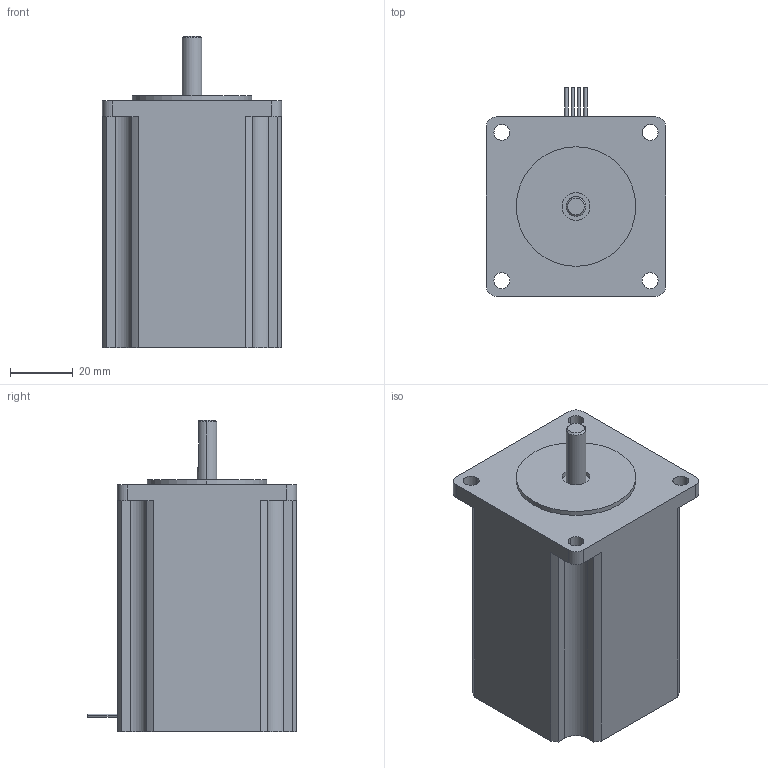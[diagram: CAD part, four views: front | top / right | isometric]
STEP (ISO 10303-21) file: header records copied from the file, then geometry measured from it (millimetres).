
FILE_DESCRIPTION((''),'2;1');
FILE_NAME('C:\Documents and Settings\rbadgerow\Desktop\webmodelmain\web step 3d\5718l\5718l s.stp','2005-05-23T09:12:10',('rbadgerow'),(''),'Autodesk Inventor 9','Autodesk Inventor 9','');
FILE_SCHEMA(('AUTOMOTIVE_DESIGN { 1 0 10303 214 1 1 1 1 }'));
Length unit declared in the file: inch
Products named in the file (1): 5718l s
Bounding box: 57.15 x 66.67 x 99.31 mm (x, y, z)
Volume: 234207.4 mm3; surface area: 24193.8 mm2
Topology: 1 solids, 1 shells, 71 faces, 182 edges, 121 vertices
Faces by surface type: cylinder 40, plane 28, cone 3
Entity records: 2234 total; most frequent: DIRECTION 411, CARTESIAN_POINT 379, ORIENTED_EDGE 364, EDGE_CURVE 182, AXIS2_PLACEMENT_3D 159, VERTEX_POINT 121, VECTOR 93, LINE 93
